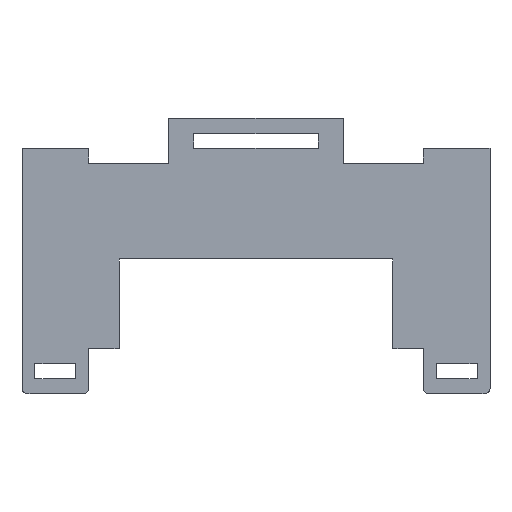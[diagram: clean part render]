
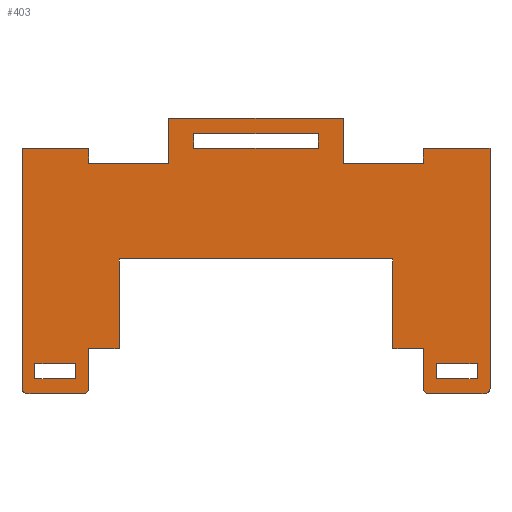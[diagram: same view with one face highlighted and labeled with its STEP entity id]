
A CAD part, front view. The second image highlights one B-rep face of the part: STEP entity #403.
In plain terms, the highlighted planar face has unit normal (0, -1, 0).
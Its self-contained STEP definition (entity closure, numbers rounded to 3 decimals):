
#32 = VERTEX_POINT('',#33);
#33 = CARTESIAN_POINT('',(0.,-3.,1.));
#39 = EDGE_CURVE('',#32,#40,#42,.T.);
#40 = VERTEX_POINT('',#41);
#41 = CARTESIAN_POINT('',(0.,-3.,49.25));
#42 = LINE('',#43,#44);
#43 = CARTESIAN_POINT('',(0.,-3.,0.));
#44 = VECTOR('',#45,1.);
#45 = DIRECTION('',(0.,0.,1.));
#360 = VERTEX_POINT('',#361);
#361 = CARTESIAN_POINT('',(1.,-3.,0.));
#367 = EDGE_CURVE('',#32,#360,#368,.T.);
#368 = CIRCLE('',#369,1.);
#369 = AXIS2_PLACEMENT_3D('',#370,#371,#372);
#370 = CARTESIAN_POINT('',(1.,-3.,1.));
#371 = DIRECTION('',(0.,-1.,0.));
#372 = DIRECTION('',(0.,0.,-1.));
#384 = EDGE_CURVE('',#40,#385,#387,.T.);
#385 = VERTEX_POINT('',#386);
#386 = CARTESIAN_POINT('',(13.36,-3.,49.25));
#387 = LINE('',#388,#389);
#388 = CARTESIAN_POINT('',(0.,-3.,49.25));
#389 = VECTOR('',#390,1.);
#390 = DIRECTION('',(1.,0.,0.));
#403 = ADVANCED_FACE('',(#404,#578,#612,#646),#680,.F.);
#404 = FACE_BOUND('',#405,.F.);
#405 = EDGE_LOOP('',(#406,#407,#408,#416,#424,#432,#440,#448,#456,#464,
    #472,#480,#489,#497,#506,#514,#522,#530,#538,#546,#554,#562,#571,
    #577));
#406 = ORIENTED_EDGE('',*,*,#39,.T.);
#407 = ORIENTED_EDGE('',*,*,#384,.T.);
#408 = ORIENTED_EDGE('',*,*,#409,.T.);
#409 = EDGE_CURVE('',#385,#410,#412,.T.);
#410 = VERTEX_POINT('',#411);
#411 = CARTESIAN_POINT('',(13.36,-3.,46.25));
#412 = LINE('',#413,#414);
#413 = CARTESIAN_POINT('',(13.36,-3.,49.25));
#414 = VECTOR('',#415,1.);
#415 = DIRECTION('',(0.,0.,-1.));
#416 = ORIENTED_EDGE('',*,*,#417,.T.);
#417 = EDGE_CURVE('',#410,#418,#420,.T.);
#418 = VERTEX_POINT('',#419);
#419 = CARTESIAN_POINT('',(29.5,-3.,46.25));
#420 = LINE('',#421,#422);
#421 = CARTESIAN_POINT('',(13.36,-3.,46.25));
#422 = VECTOR('',#423,1.);
#423 = DIRECTION('',(1.,0.,0.));
#424 = ORIENTED_EDGE('',*,*,#425,.T.);
#425 = EDGE_CURVE('',#418,#426,#428,.T.);
#426 = VERTEX_POINT('',#427);
#427 = CARTESIAN_POINT('',(29.5,-3.,55.3));
#428 = LINE('',#429,#430);
#429 = CARTESIAN_POINT('',(29.5,-3.,46.25));
#430 = VECTOR('',#431,1.);
#431 = DIRECTION('',(0.,0.,1.));
#432 = ORIENTED_EDGE('',*,*,#433,.T.);
#433 = EDGE_CURVE('',#426,#434,#436,.T.);
#434 = VERTEX_POINT('',#435);
#435 = CARTESIAN_POINT('',(64.5,-3.,55.3));
#436 = LINE('',#437,#438);
#437 = CARTESIAN_POINT('',(29.5,-3.,55.3));
#438 = VECTOR('',#439,1.);
#439 = DIRECTION('',(1.,0.,0.));
#440 = ORIENTED_EDGE('',*,*,#441,.T.);
#441 = EDGE_CURVE('',#434,#442,#444,.T.);
#442 = VERTEX_POINT('',#443);
#443 = CARTESIAN_POINT('',(64.5,-3.,46.25));
#444 = LINE('',#445,#446);
#445 = CARTESIAN_POINT('',(64.5,-3.,55.3));
#446 = VECTOR('',#447,1.);
#447 = DIRECTION('',(0.,0.,-1.));
#448 = ORIENTED_EDGE('',*,*,#449,.T.);
#449 = EDGE_CURVE('',#442,#450,#452,.T.);
#450 = VERTEX_POINT('',#451);
#451 = CARTESIAN_POINT('',(80.64,-3.,46.25));
#452 = LINE('',#453,#454);
#453 = CARTESIAN_POINT('',(64.5,-3.,46.25));
#454 = VECTOR('',#455,1.);
#455 = DIRECTION('',(1.,0.,0.));
#456 = ORIENTED_EDGE('',*,*,#457,.T.);
#457 = EDGE_CURVE('',#450,#458,#460,.T.);
#458 = VERTEX_POINT('',#459);
#459 = CARTESIAN_POINT('',(80.64,-3.,49.25));
#460 = LINE('',#461,#462);
#461 = CARTESIAN_POINT('',(80.64,-3.,46.25));
#462 = VECTOR('',#463,1.);
#463 = DIRECTION('',(0.,0.,1.));
#464 = ORIENTED_EDGE('',*,*,#465,.T.);
#465 = EDGE_CURVE('',#458,#466,#468,.T.);
#466 = VERTEX_POINT('',#467);
#467 = CARTESIAN_POINT('',(94.,-3.,49.25));
#468 = LINE('',#469,#470);
#469 = CARTESIAN_POINT('',(80.64,-3.,49.25));
#470 = VECTOR('',#471,1.);
#471 = DIRECTION('',(1.,0.,0.));
#472 = ORIENTED_EDGE('',*,*,#473,.T.);
#473 = EDGE_CURVE('',#466,#474,#476,.T.);
#474 = VERTEX_POINT('',#475);
#475 = CARTESIAN_POINT('',(94.,-3.,1.));
#476 = LINE('',#477,#478);
#477 = CARTESIAN_POINT('',(94.,-3.,49.25));
#478 = VECTOR('',#479,1.);
#479 = DIRECTION('',(0.,0.,-1.));
#480 = ORIENTED_EDGE('',*,*,#481,.T.);
#481 = EDGE_CURVE('',#474,#482,#484,.T.);
#482 = VERTEX_POINT('',#483);
#483 = CARTESIAN_POINT('',(93.,-3.,0.));
#484 = CIRCLE('',#485,1.);
#485 = AXIS2_PLACEMENT_3D('',#486,#487,#488);
#486 = CARTESIAN_POINT('',(93.,-3.,1.));
#487 = DIRECTION('',(0.,1.,0.));
#488 = DIRECTION('',(0.,0.,-1.));
#489 = ORIENTED_EDGE('',*,*,#490,.T.);
#490 = EDGE_CURVE('',#482,#491,#493,.T.);
#491 = VERTEX_POINT('',#492);
#492 = CARTESIAN_POINT('',(81.64,-3.,0.));
#493 = LINE('',#494,#495);
#494 = CARTESIAN_POINT('',(94.,-3.,0.));
#495 = VECTOR('',#496,1.);
#496 = DIRECTION('',(-1.,0.,0.));
#497 = ORIENTED_EDGE('',*,*,#498,.T.);
#498 = EDGE_CURVE('',#491,#499,#501,.T.);
#499 = VERTEX_POINT('',#500);
#500 = CARTESIAN_POINT('',(80.64,-3.,1.));
#501 = CIRCLE('',#502,1.);
#502 = AXIS2_PLACEMENT_3D('',#503,#504,#505);
#503 = CARTESIAN_POINT('',(81.64,-3.,1.));
#504 = DIRECTION('',(0.,1.,0.));
#505 = DIRECTION('',(0.,0.,-1.));
#506 = ORIENTED_EDGE('',*,*,#507,.T.);
#507 = EDGE_CURVE('',#499,#508,#510,.T.);
#508 = VERTEX_POINT('',#509);
#509 = CARTESIAN_POINT('',(80.64,-3.,9.05));
#510 = LINE('',#511,#512);
#511 = CARTESIAN_POINT('',(80.64,-3.,0.));
#512 = VECTOR('',#513,1.);
#513 = DIRECTION('',(0.,0.,1.));
#514 = ORIENTED_EDGE('',*,*,#515,.T.);
#515 = EDGE_CURVE('',#508,#516,#518,.T.);
#516 = VERTEX_POINT('',#517);
#517 = CARTESIAN_POINT('',(74.5,-3.,9.05));
#518 = LINE('',#519,#520);
#519 = CARTESIAN_POINT('',(80.64,-3.,9.05));
#520 = VECTOR('',#521,1.);
#521 = DIRECTION('',(-1.,0.,0.));
#522 = ORIENTED_EDGE('',*,*,#523,.T.);
#523 = EDGE_CURVE('',#516,#524,#526,.T.);
#524 = VERTEX_POINT('',#525);
#525 = CARTESIAN_POINT('',(74.5,-3.,27.05));
#526 = LINE('',#527,#528);
#527 = CARTESIAN_POINT('',(74.5,-3.,9.05));
#528 = VECTOR('',#529,1.);
#529 = DIRECTION('',(0.,0.,1.));
#530 = ORIENTED_EDGE('',*,*,#531,.T.);
#531 = EDGE_CURVE('',#524,#532,#534,.T.);
#532 = VERTEX_POINT('',#533);
#533 = CARTESIAN_POINT('',(19.5,-3.,27.05));
#534 = LINE('',#535,#536);
#535 = CARTESIAN_POINT('',(74.5,-3.,27.05));
#536 = VECTOR('',#537,1.);
#537 = DIRECTION('',(-1.,0.,0.));
#538 = ORIENTED_EDGE('',*,*,#539,.T.);
#539 = EDGE_CURVE('',#532,#540,#542,.T.);
#540 = VERTEX_POINT('',#541);
#541 = CARTESIAN_POINT('',(19.5,-3.,9.05));
#542 = LINE('',#543,#544);
#543 = CARTESIAN_POINT('',(19.5,-3.,27.05));
#544 = VECTOR('',#545,1.);
#545 = DIRECTION('',(0.,0.,-1.));
#546 = ORIENTED_EDGE('',*,*,#547,.T.);
#547 = EDGE_CURVE('',#540,#548,#550,.T.);
#548 = VERTEX_POINT('',#549);
#549 = CARTESIAN_POINT('',(13.36,-3.,9.05));
#550 = LINE('',#551,#552);
#551 = CARTESIAN_POINT('',(19.5,-3.,9.05));
#552 = VECTOR('',#553,1.);
#553 = DIRECTION('',(-1.,0.,0.));
#554 = ORIENTED_EDGE('',*,*,#555,.T.);
#555 = EDGE_CURVE('',#548,#556,#558,.T.);
#556 = VERTEX_POINT('',#557);
#557 = CARTESIAN_POINT('',(13.36,-3.,1.));
#558 = LINE('',#559,#560);
#559 = CARTESIAN_POINT('',(13.36,-3.,9.05));
#560 = VECTOR('',#561,1.);
#561 = DIRECTION('',(0.,0.,-1.));
#562 = ORIENTED_EDGE('',*,*,#563,.T.);
#563 = EDGE_CURVE('',#556,#564,#566,.T.);
#564 = VERTEX_POINT('',#565);
#565 = CARTESIAN_POINT('',(12.36,-3.,0.));
#566 = CIRCLE('',#567,1.);
#567 = AXIS2_PLACEMENT_3D('',#568,#569,#570);
#568 = CARTESIAN_POINT('',(12.36,-3.,1.));
#569 = DIRECTION('',(0.,1.,0.));
#570 = DIRECTION('',(0.,0.,-1.));
#571 = ORIENTED_EDGE('',*,*,#572,.T.);
#572 = EDGE_CURVE('',#564,#360,#573,.T.);
#573 = LINE('',#574,#575);
#574 = CARTESIAN_POINT('',(13.36,-3.,0.));
#575 = VECTOR('',#576,1.);
#576 = DIRECTION('',(-1.,0.,0.));
#577 = ORIENTED_EDGE('',*,*,#367,.F.);
#578 = FACE_BOUND('',#579,.T.);
#579 = EDGE_LOOP('',(#580,#590,#598,#606));
#580 = ORIENTED_EDGE('',*,*,#581,.T.);
#581 = EDGE_CURVE('',#582,#584,#586,.T.);
#582 = VERTEX_POINT('',#583);
#583 = CARTESIAN_POINT('',(34.5,-3.,52.25));
#584 = VERTEX_POINT('',#585);
#585 = CARTESIAN_POINT('',(59.5,-3.,52.25));
#586 = LINE('',#587,#588);
#587 = CARTESIAN_POINT('',(34.5,-3.,52.25));
#588 = VECTOR('',#589,1.);
#589 = DIRECTION('',(1.,0.,0.));
#590 = ORIENTED_EDGE('',*,*,#591,.T.);
#591 = EDGE_CURVE('',#584,#592,#594,.T.);
#592 = VERTEX_POINT('',#593);
#593 = CARTESIAN_POINT('',(59.5,-3.,49.25));
#594 = LINE('',#595,#596);
#595 = CARTESIAN_POINT('',(59.5,-3.,52.25));
#596 = VECTOR('',#597,1.);
#597 = DIRECTION('',(0.,0.,-1.));
#598 = ORIENTED_EDGE('',*,*,#599,.T.);
#599 = EDGE_CURVE('',#592,#600,#602,.T.);
#600 = VERTEX_POINT('',#601);
#601 = CARTESIAN_POINT('',(34.5,-3.,49.25));
#602 = LINE('',#603,#604);
#603 = CARTESIAN_POINT('',(59.5,-3.,49.25));
#604 = VECTOR('',#605,1.);
#605 = DIRECTION('',(-1.,0.,0.));
#606 = ORIENTED_EDGE('',*,*,#607,.T.);
#607 = EDGE_CURVE('',#600,#582,#608,.T.);
#608 = LINE('',#609,#610);
#609 = CARTESIAN_POINT('',(34.5,-3.,49.25));
#610 = VECTOR('',#611,1.);
#611 = DIRECTION('',(0.,0.,1.));
#612 = FACE_BOUND('',#613,.T.);
#613 = EDGE_LOOP('',(#614,#624,#632,#640));
#614 = ORIENTED_EDGE('',*,*,#615,.T.);
#615 = EDGE_CURVE('',#616,#618,#620,.T.);
#616 = VERTEX_POINT('',#617);
#617 = CARTESIAN_POINT('',(83.22,-3.,6.05));
#618 = VERTEX_POINT('',#619);
#619 = CARTESIAN_POINT('',(91.42,-3.,6.05));
#620 = LINE('',#621,#622);
#621 = CARTESIAN_POINT('',(83.22,-3.,6.05));
#622 = VECTOR('',#623,1.);
#623 = DIRECTION('',(1.,0.,0.));
#624 = ORIENTED_EDGE('',*,*,#625,.T.);
#625 = EDGE_CURVE('',#618,#626,#628,.T.);
#626 = VERTEX_POINT('',#627);
#627 = CARTESIAN_POINT('',(91.42,-3.,3.));
#628 = LINE('',#629,#630);
#629 = CARTESIAN_POINT('',(91.42,-3.,6.05));
#630 = VECTOR('',#631,1.);
#631 = DIRECTION('',(0.,0.,-1.));
#632 = ORIENTED_EDGE('',*,*,#633,.T.);
#633 = EDGE_CURVE('',#626,#634,#636,.T.);
#634 = VERTEX_POINT('',#635);
#635 = CARTESIAN_POINT('',(83.22,-3.,3.));
#636 = LINE('',#637,#638);
#637 = CARTESIAN_POINT('',(91.42,-3.,3.));
#638 = VECTOR('',#639,1.);
#639 = DIRECTION('',(-1.,0.,0.));
#640 = ORIENTED_EDGE('',*,*,#641,.T.);
#641 = EDGE_CURVE('',#634,#616,#642,.T.);
#642 = LINE('',#643,#644);
#643 = CARTESIAN_POINT('',(83.22,-3.,3.));
#644 = VECTOR('',#645,1.);
#645 = DIRECTION('',(0.,0.,1.));
#646 = FACE_BOUND('',#647,.T.);
#647 = EDGE_LOOP('',(#648,#658,#666,#674));
#648 = ORIENTED_EDGE('',*,*,#649,.T.);
#649 = EDGE_CURVE('',#650,#652,#654,.T.);
#650 = VERTEX_POINT('',#651);
#651 = CARTESIAN_POINT('',(2.58,-3.,6.05));
#652 = VERTEX_POINT('',#653);
#653 = CARTESIAN_POINT('',(10.78,-3.,6.05));
#654 = LINE('',#655,#656);
#655 = CARTESIAN_POINT('',(2.58,-3.,6.05));
#656 = VECTOR('',#657,1.);
#657 = DIRECTION('',(1.,0.,0.));
#658 = ORIENTED_EDGE('',*,*,#659,.T.);
#659 = EDGE_CURVE('',#652,#660,#662,.T.);
#660 = VERTEX_POINT('',#661);
#661 = CARTESIAN_POINT('',(10.78,-3.,3.));
#662 = LINE('',#663,#664);
#663 = CARTESIAN_POINT('',(10.78,-3.,6.05));
#664 = VECTOR('',#665,1.);
#665 = DIRECTION('',(0.,0.,-1.));
#666 = ORIENTED_EDGE('',*,*,#667,.T.);
#667 = EDGE_CURVE('',#660,#668,#670,.T.);
#668 = VERTEX_POINT('',#669);
#669 = CARTESIAN_POINT('',(2.58,-3.,3.));
#670 = LINE('',#671,#672);
#671 = CARTESIAN_POINT('',(10.78,-3.,3.));
#672 = VECTOR('',#673,1.);
#673 = DIRECTION('',(-1.,0.,0.));
#674 = ORIENTED_EDGE('',*,*,#675,.T.);
#675 = EDGE_CURVE('',#668,#650,#676,.T.);
#676 = LINE('',#677,#678);
#677 = CARTESIAN_POINT('',(2.58,-3.,3.));
#678 = VECTOR('',#679,1.);
#679 = DIRECTION('',(0.,0.,1.));
#680 = PLANE('',#681);
#681 = AXIS2_PLACEMENT_3D('',#682,#683,#684);
#682 = CARTESIAN_POINT('',(47.,-3.,29.529));
#683 = DIRECTION('',(0.,1.,0.));
#684 = DIRECTION('',(0.,0.,1.));
